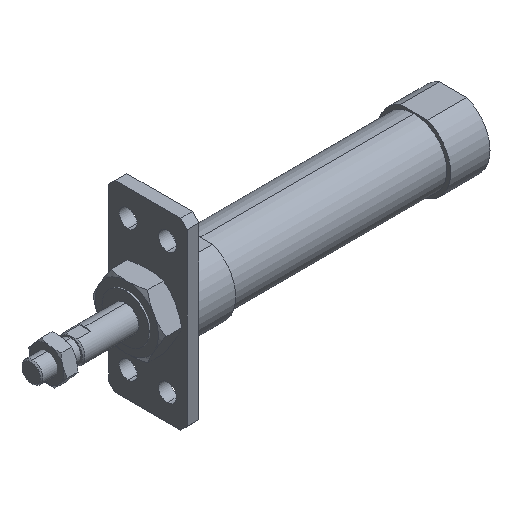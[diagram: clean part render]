
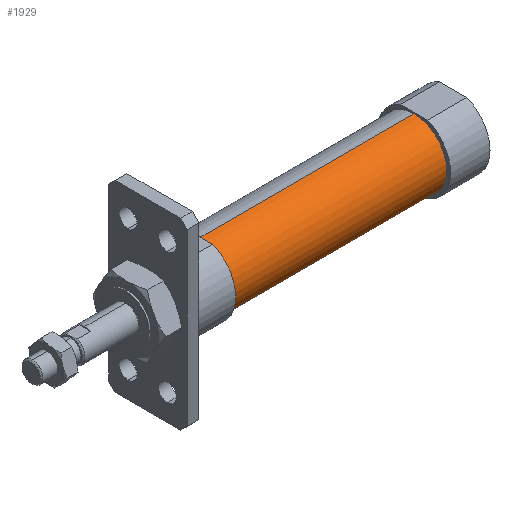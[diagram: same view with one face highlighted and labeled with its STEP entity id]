
A CAD part, isometric view. The second image highlights one B-rep face of the part: STEP entity #1929.
In plain terms, the highlighted cylindrical face has radius 12.5 mm (diameter 25 mm), a partial arc.
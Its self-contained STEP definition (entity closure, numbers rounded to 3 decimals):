
#63 = AXIS2_PLACEMENT_3D ( 'NONE', #1848, #1874, #1607 ) ;
#264 = EDGE_LOOP ( 'NONE', ( #3661, #496, #1212, #2384 ) ) ;
#319 = AXIS2_PLACEMENT_3D ( 'NONE', #1840, #2073, #2132 ) ;
#403 = CARTESIAN_POINT ( 'NONE',  ( 146., 0., -12.5 ) ) ;
#496 = ORIENTED_EDGE ( 'NONE', *, *, #3314, .T. ) ;
#568 = EDGE_CURVE ( 'NONE', #2991, #3444, #2483, .T. ) ;
#863 = DIRECTION ( 'NONE',  ( -1., 0., 0. ) ) ;
#874 = CARTESIAN_POINT ( 'NONE',  ( 146., 0., 12.5 ) ) ;
#976 = VECTOR ( 'NONE', #2936, 1000. ) ;
#995 = CARTESIAN_POINT ( 'NONE',  ( 64., 0., 12.5 ) ) ;
#1125 = CYLINDRICAL_SURFACE ( 'NONE', #63, 12.5 ) ;
#1212 = ORIENTED_EDGE ( 'NONE', *, *, #568, .T. ) ;
#1607 = DIRECTION ( 'NONE',  ( 0., 0., 1. ) ) ;
#1649 = VERTEX_POINT ( 'NONE', #403 ) ;
#1828 = VECTOR ( 'NONE', #863, 1000. ) ;
#1840 = CARTESIAN_POINT ( 'NONE',  ( 64., 0., 0. ) ) ;
#1848 = CARTESIAN_POINT ( 'NONE',  ( -6.469, 0., 0. ) ) ;
#1874 = DIRECTION ( 'NONE',  ( -1., 0., 0. ) ) ;
#1929 = ADVANCED_FACE ( 'NONE', ( #3545 ), #1125, .T. ) ;
#2062 = CARTESIAN_POINT ( 'NONE',  ( -6.469, 0., 12.5 ) ) ;
#2073 = DIRECTION ( 'NONE',  ( -1., 0., 0. ) ) ;
#2132 = DIRECTION ( 'NONE',  ( 0., 0., 1. ) ) ;
#2135 = CARTESIAN_POINT ( 'NONE',  ( 64., 0., -12.5 ) ) ;
#2237 = CARTESIAN_POINT ( 'NONE',  ( -6.469, 0., -12.5 ) ) ;
#2285 = CIRCLE ( 'NONE', #2722, 12.5 ) ;
#2384 = ORIENTED_EDGE ( 'NONE', *, *, #2395, .F. ) ;
#2395 = EDGE_CURVE ( 'NONE', #2490, #3444, #3311, .T. ) ;
#2483 = LINE ( 'NONE', #2062, #976 ) ;
#2490 = VERTEX_POINT ( 'NONE', #2135 ) ;
#2722 = AXIS2_PLACEMENT_3D ( 'NONE', #3351, #3644, #2744 ) ;
#2744 = DIRECTION ( 'NONE',  ( 0., 0., 1. ) ) ;
#2765 = EDGE_CURVE ( 'NONE', #1649, #2490, #3493, .T. ) ;
#2936 = DIRECTION ( 'NONE',  ( -1., 0., 0. ) ) ;
#2991 = VERTEX_POINT ( 'NONE', #874 ) ;
#3311 = CIRCLE ( 'NONE', #319, 12.5 ) ;
#3314 = EDGE_CURVE ( 'NONE', #1649, #2991, #2285, .T. ) ;
#3351 = CARTESIAN_POINT ( 'NONE',  ( 146., 0., 0. ) ) ;
#3444 = VERTEX_POINT ( 'NONE', #995 ) ;
#3493 = LINE ( 'NONE', #2237, #1828 ) ;
#3545 = FACE_OUTER_BOUND ( 'NONE', #264, .T. ) ;
#3644 = DIRECTION ( 'NONE',  ( -1., 0., 0. ) ) ;
#3661 = ORIENTED_EDGE ( 'NONE', *, *, #2765, .F. ) ;
